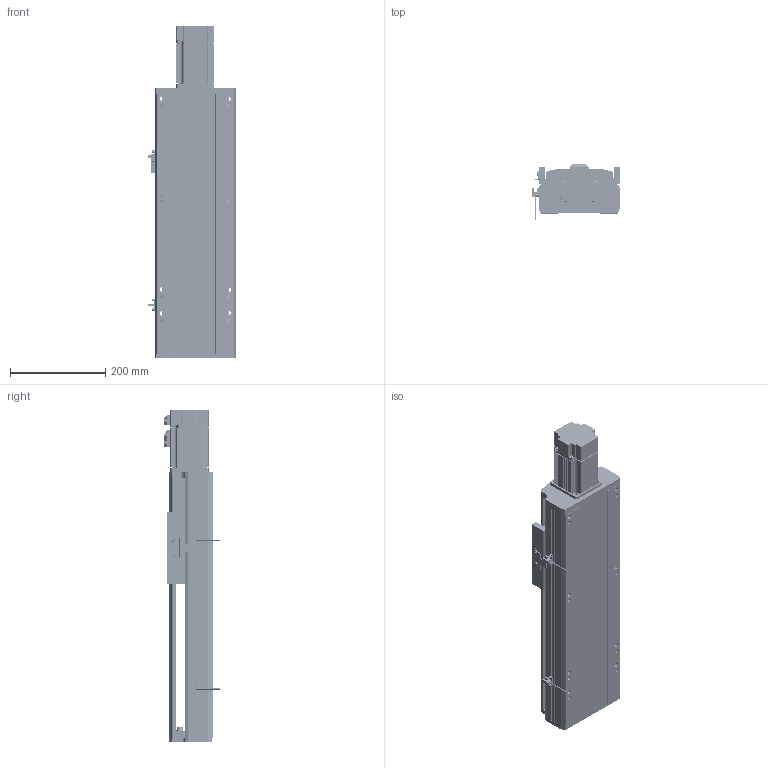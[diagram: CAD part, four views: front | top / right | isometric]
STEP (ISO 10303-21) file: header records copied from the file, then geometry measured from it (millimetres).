
FILE_DESCRIPTION (( 'STEP AP214' ), '1' );
FILE_NAME ('CTH170-300.STEP', '2019-11-25T08:48:24', ( '微软用户' ), ( '微软中国' ), 'SwSTEP 2.0', 'SolidWorks 2017', '' );
FILE_SCHEMA (( 'AUTOMOTIVE_DESIGN' ));
Length unit declared in the file: millimetre
Products named in the file (32): 80EMA-016A; EE-SX672峚倰換覜ん; 170萇儂啣; CT17耀郪-覜茼んえ; 170傷啣; M6-L20囀鞠褒蹟佪; EGH20CA; 蚾饜极3^CTH170-L10-200; M5-L20囀鞠褒蹟佪-BR L; M4-L10囀鞠褒蹟佪-BR L; M5-L10囀鞠褒蹟佪; 坶踡蹟簽M15x1; EGH20CA_BLOCK; 潔路遠COL15-A; EG20_RAIL; MISUMI_B7002-DB_盄俶絳砃粣; 170賑怢; BEARING_MISUMI_B7002-DB_盄俶絳砃粣; 170裔啣^CTH170-L10-200; 錨璃8^蚾饜极3_CTH170-L10-200; 錨璃2; 复件 轴承座^装配体3_CTH170-L10-200; 佪話盓傅釱^CTH170-L10-200; CTH170-300; M5-L16囀鞠褒蹟佪; 遣喳蝶15x12x8-BR L; 支撑座^丝杠支撑座_CTH170-L10-200; B6002Z; _C-BSST2005_n; SFS2005-411-SZC; SFH2010佪裝; M3-L8囀鞠褒蹟佪
Assembly tree (79 placements, depth 4):
  CTH170-300
    錨璃2
    170裔啣^CTH170-L10-200
    170賑怢
    EGH20CA  x2
      EG20_RAIL
      EGH20CA_BLOCK
      M5-L10囀鞠褒蹟佪
      M5-L20囀鞠褒蹟佪-BR L
    170傷啣
    170萇儂啣
    80EMA-016A
    SFS2005-411-SZC
      SFH2010佪裝
    _C-BSST2005_n
    佪話盓傅釱^CTH170-L10-200
      B6002Z
      支撑座^丝杠支撑座_CTH170-L10-200
      遣喳蝶15x12x8-BR L  x2
      M5-L16囀鞠褒蹟佪  x2
    蚾饜极3^CTH170-L10-200
      复件 轴承座^装配体3_CTH170-L10-200
      錨璃8^蚾饜极3_CTH170-L10-200
      MISUMI_B7002-DB_盄俶絳砃粣
        BEARING_MISUMI_B7002-DB_盄俶絳砃粣  x2
      潔路遠COL15-A  x2
      坶踡蹟簽M15x1
      M5-L16囀鞠褒蹟佪  x6
      M4-L10囀鞠褒蹟佪-BR L  x4
    遣喳蝶15x12x8-BR L  x2
    M6-L20囀鞠褒蹟佪  x4
    M4-L10囀鞠褒蹟佪-BR L  x10
    M5-L16囀鞠褒蹟佪  x4
    CT17耀郪-覜茼んえ
    EE-SX672峚倰換覜ん  x2
    M3-L8囀鞠褒蹟佪  x4
Bounding box: 183.7 x 117.95 x 696 mm (x, y, z)
Volume: 4541547.1 mm3; surface area: 1305353.8 mm2
Topology: 91 solids, 92 shells, 5515 faces, 14433 edges, 9210 vertices
Faces by surface type: plane 3098, cylinder 1426, cone 609, bspline 342, torus 40
Entity records: 97502 total; most frequent: CARTESIAN_POINT 20767, ORIENTED_EDGE 14000, DIRECTION 13599, EDGE_CURVE 7000, AXIS2_PLACEMENT_3D 4708, VERTEX_POINT 4550, LINE 4183, VECTOR 4183
